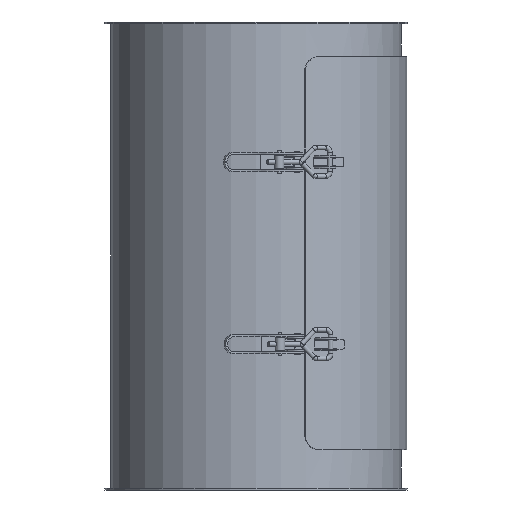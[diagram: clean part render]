
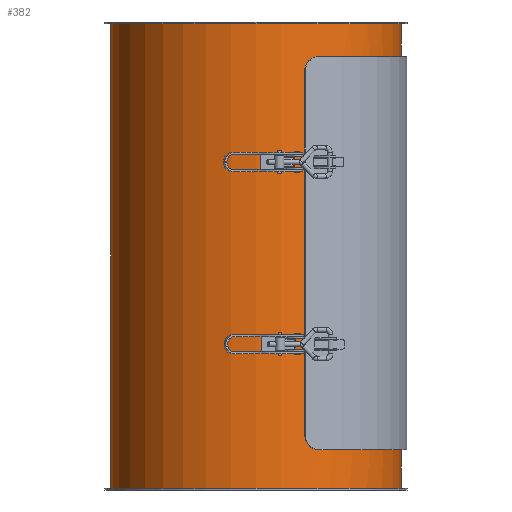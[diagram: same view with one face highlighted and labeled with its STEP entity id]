
A CAD part, left-side view. The second image highlights one B-rep face of the part: STEP entity #382.
In plain terms, the highlighted cylindrical face has radius 151.5 mm (diameter 303 mm), a full revolution.
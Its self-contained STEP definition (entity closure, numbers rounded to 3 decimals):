
#123=CARTESIAN_POINT('',(-126.5,-83.367,69.));
#124=VERTEX_POINT('',#123);
#131=CARTESIAN_POINT('',(126.5,-83.367,69.));
#132=VERTEX_POINT('',#131);
#133=CARTESIAN_POINT('',(0.0,0.0,69.));
#134=DIRECTION('',(0.0,0.0,-1.0));
#135=DIRECTION('',(-1.0,0.0,0.0));
#136=AXIS2_PLACEMENT_3D('',#133,#134,#135);
#137=CIRCLE('',#136,151.5);
#138=EDGE_CURVE('',#132,#124,#137,.T.);
#163=CARTESIAN_POINT('',(126.5,-83.367,419.0));
#164=VERTEX_POINT('',#163);
#165=CARTESIAN_POINT('',(126.5,-83.367,419.0));
#166=DIRECTION('',(0.0,0.0,-1.0));
#167=VECTOR('',#166,350.);
#168=LINE('',#165,#167);
#169=EDGE_CURVE('',#164,#132,#168,.T.);
#195=CARTESIAN_POINT('',(-126.5,-83.367,419.));
#196=VERTEX_POINT('',#195);
#197=CARTESIAN_POINT('',(0.0,0.0,419.));
#198=DIRECTION('',(0.0,0.0,1.0));
#199=DIRECTION('',(-1.0,0.0,0.0));
#200=AXIS2_PLACEMENT_3D('',#197,#198,#199);
#201=CIRCLE('',#200,151.5);
#202=EDGE_CURVE('',#196,#164,#201,.T.);
#225=CARTESIAN_POINT('',(-126.5,-83.367,69.));
#226=DIRECTION('',(0.0,0.0,1.0));
#227=VECTOR('',#226,350.0);
#228=LINE('',#225,#227);
#229=EDGE_CURVE('',#124,#196,#228,.T.);
#271=CARTESIAN_POINT('',(-151.5,0.,2.0));
#272=VERTEX_POINT('',#271);
#273=CARTESIAN_POINT('',(0.0,0.0,2.0));
#274=DIRECTION('',(0.0,0.0,1.0));
#275=DIRECTION('',(-1.0,0.0,0.0));
#276=AXIS2_PLACEMENT_3D('',#273,#274,#275);
#277=CIRCLE('',#276,151.5);
#278=EDGE_CURVE('',#272,#272,#277,.T.);
#319=CARTESIAN_POINT('',(151.5,0.,486.0));
#320=VERTEX_POINT('',#319);
#321=CARTESIAN_POINT('',(0.0,0.0,486.0));
#322=DIRECTION('',(0.0,0.0,-1.0));
#323=DIRECTION('',(-1.0,0.0,0.0));
#324=AXIS2_PLACEMENT_3D('',#321,#322,#323);
#325=CIRCLE('',#324,151.5);
#326=EDGE_CURVE('',#320,#320,#325,.T.);
#365=CARTESIAN_POINT('',(0.0,0.0,0.0));
#366=DIRECTION('',(0.0,0.0,1.0));
#367=DIRECTION('',(-1.0,0.0,0.0));
#368=AXIS2_PLACEMENT_3D('',#365,#366,#367);
#369=CYLINDRICAL_SURFACE('',#368,151.5);
#370=ORIENTED_EDGE('',*,*,#278,.T.);
#371=EDGE_LOOP('',(#370));
#372=FACE_OUTER_BOUND('',#371,.T.);
#373=ORIENTED_EDGE('',*,*,#202,.T.);
#374=ORIENTED_EDGE('',*,*,#169,.T.);
#375=ORIENTED_EDGE('',*,*,#138,.T.);
#376=ORIENTED_EDGE('',*,*,#229,.T.);
#377=EDGE_LOOP('',(#373,#374,#375,#376));
#378=FACE_BOUND('',#377,.T.);
#379=ORIENTED_EDGE('',*,*,#326,.T.);
#380=EDGE_LOOP('',(#379));
#381=FACE_BOUND('',#380,.T.);
#382=ADVANCED_FACE('',(#372,#378,#381),#369,.T.);
